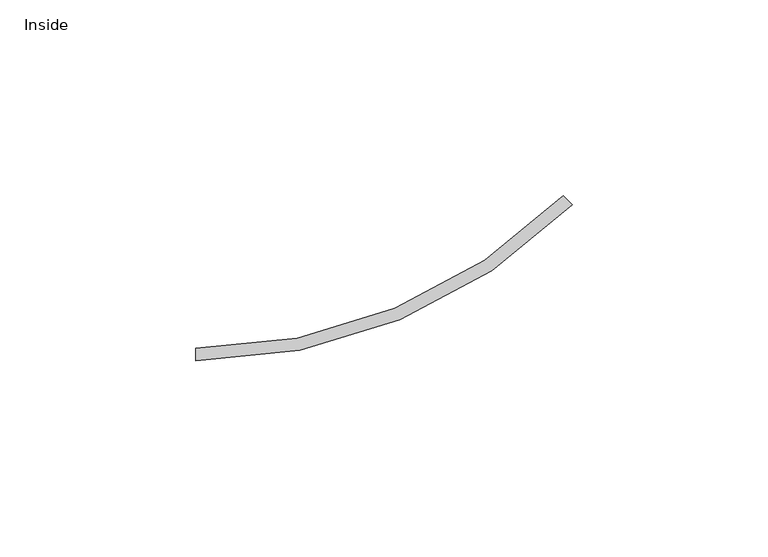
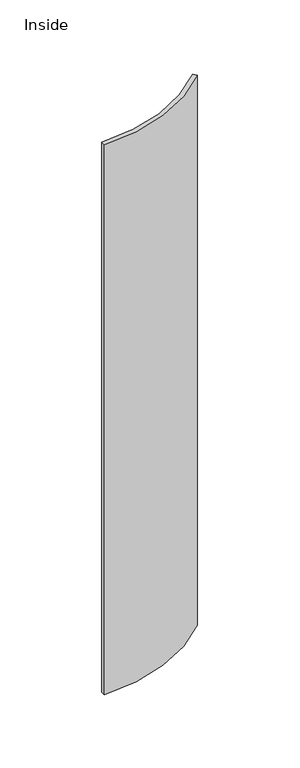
"""IFC4 building model written with IfcOpenShell, lengths in millimetres: cable carrier fitting geometry, Bend-Vertical-Cablofil-Wire_Mesh_Cable_Tray : Inside."""

from ifc_helpers import new_model, si_unit, point, frame, frame_2d, origin, place, context, project, spatial, polyline, circle_curve, trimmed, segment, composite_curve, outline, extrude, source, transform, mapped, element, save


def inside_51a43a1a(model_context):
    return source(origin(), model_context, "Body", "SweptSolid", [
        extrude(outline(composite_curve([segment(polyline([(48.1866413, 16.4139542), (50.4317053, 14.1688902)]), True, "CONTINUOUS"), segment(trimmed(circle_curve(frame_2d((-45.6795192, 110.2801147)), 135.9217972), [point((50.4317053, 14.1688902))], [point((-45.6795192, -25.6416825))], False, "CARTESIAN"), True, "CONTINUOUS"), segment(polyline([(-45.6795192, -25.6416825), (-45.6795192, -22.4666825)]), True, "CONTINUOUS"), segment(trimmed(circle_curve(frame_2d((-45.6795192, 110.2801147)), 132.7467972), [point((-45.6795192, -22.4666825))], [point((48.1866413, 16.4139542))], True, "CARTESIAN"), True, "CONTINUOUS")], self_intersect=False)), frame((0.0, 0.0, -228.6), z_axis=(0.0, 0.0, 1.0), x_axis=(1.0, 0.0, 0.0)), (0.0, 0.0, 1.0), 457.2),
    ])


if __name__ == "__main__":
    model = new_model("IFC4")
    model_context = context("Model", 3, world=origin())
    ifc_project = project(units=[si_unit("LENGTHUNIT", "METRE", prefix="MILLI")], contexts=[model_context])
    site = spatial("IfcSite", under=ifc_project)
    building = spatial("IfcBuilding", under=site)
    placement = place(None, origin())
    inside_shape = inside_51a43a1a(model_context)
    element("IfcCableCarrierFitting", 1, ObjectType="Bend-Vertical-Cablofil-Wire_Mesh_Cable_Tray : Inside", at=placement, inside=building, context=model_context, shape_type="MappedRepresentation", body=[
        mapped(inside_shape, transform((0.0, 0.0, 0.0), x_axis=(1.0, 0.0, 0.0), y_axis=(0.0, 1.0, 0.0), z_axis=(0.0, 0.0, 1.0))),
    ])
    save(model, "model.ifc")
